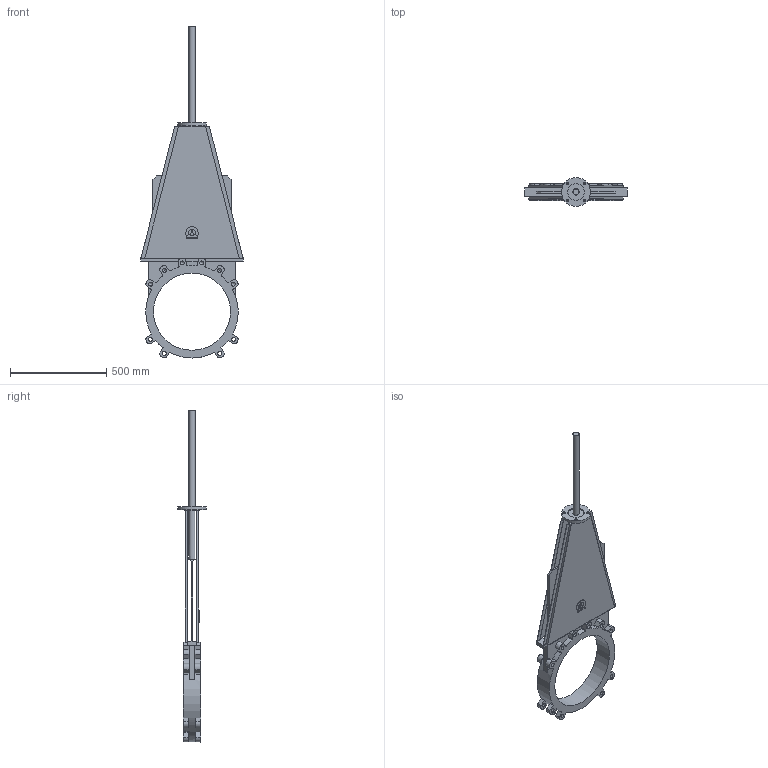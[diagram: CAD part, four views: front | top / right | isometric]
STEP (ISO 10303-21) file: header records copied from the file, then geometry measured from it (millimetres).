
FILE_DESCRIPTION(('STEP AP203'), '1');
FILE_NAME('K21GVA_DN400', '', ('UNSPECIFIED'), ('UNSPECIFIED'), 'ASCON STEP Converter 1.6', 'ASCON Math Kernel', '');
FILE_SCHEMA(('CONFIG_CONTROL_DESIGN'));
Length unit declared in the file: millimetre
Bounding box: 530 x 150 x 1721 mm (x, y, z)
Volume: 10587821.6 mm3; surface area: 2072334.3 mm2
Topology: 1 solids, 1 shells, 263 faces, 754 edges, 489 vertices
Faces by surface type: plane 156, cylinder 94, cone 13
Full cylindrical faces by diameter (mm): 14 x4, 20.752 x20, 32 x2, 80 x1, 85 x1, 150 x1, 400 x1
Entity records: 10606 total; most frequent: CARTESIAN_POINT 1544, DIRECTION 1468, ORIENTED_EDGE 1398, EDGE_CURVE 699, AXIS2_PLACEMENT_3D 509, VERTEX_POINT 477, LINE 450, VECTOR 450
